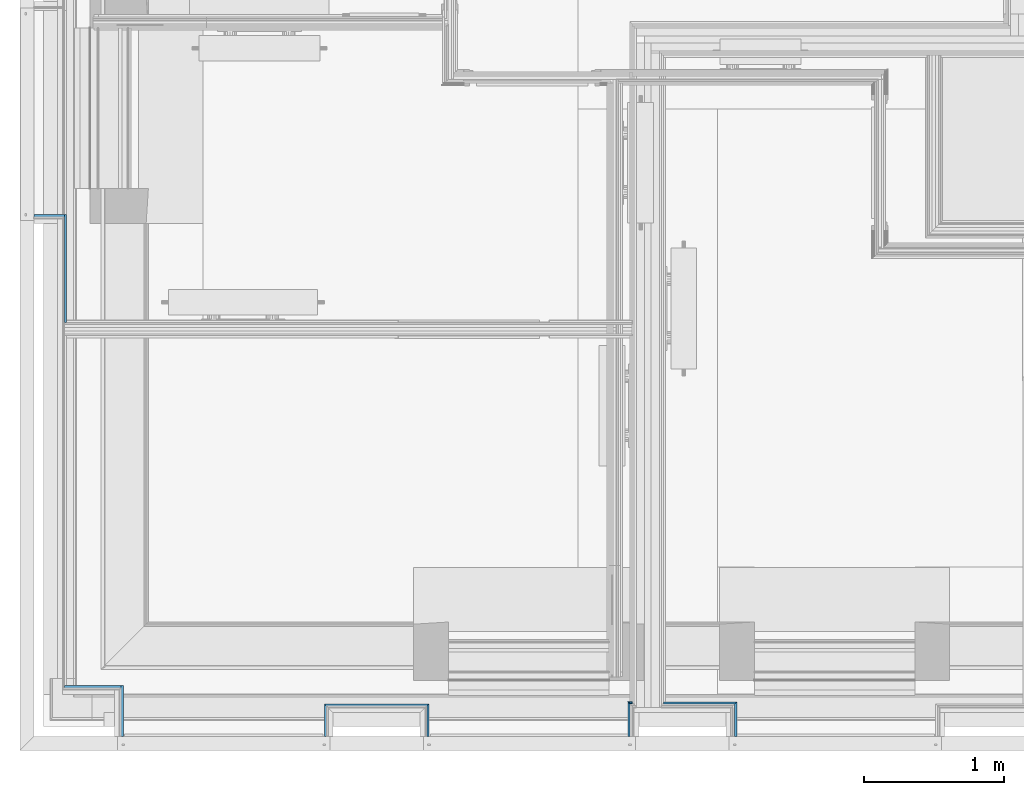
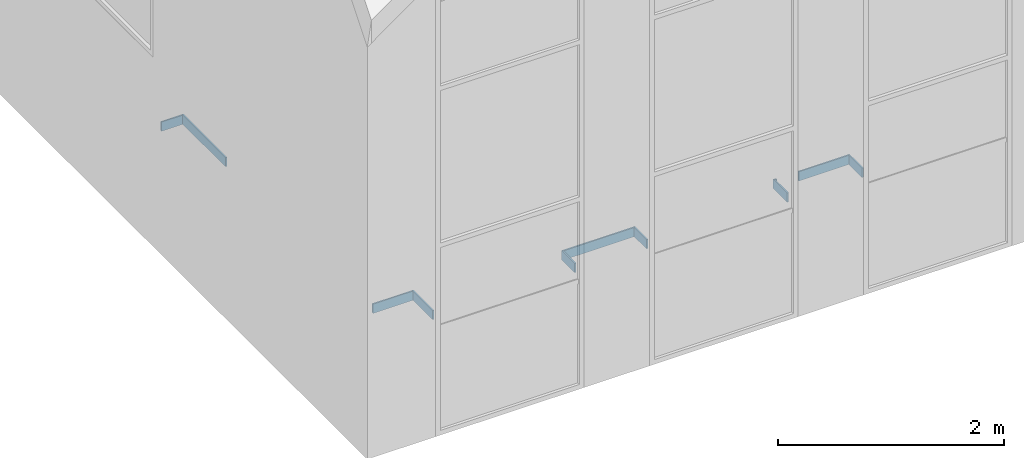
# One storey, part 49 of 169: 11 building element parts, 10 elements without a shape of their own.
"""IFC2X3 building model written with IfcOpenShell, lengths in metres."""

import ifcopenshell
import ifcopenshell.guid

model = None  # the IFC model being written
_history = None  # IfcOwnerHistory: only IFC2X3 demands one
_inside = {}  # id of a spatial element -> (the spatial element, [elements in it])
_under = {}  # id of a project, library or spatial element -> (it, [spatial elements below it])
_declared = {}  # id of a project -> (the project, [libraries it declares])
_typed = {}  # id of a type object -> (the type object, [elements of that type])
_made_of = {}  # id of a material, layer set ... -> (it, [elements and type objects made of it])


def new_model(schema):
    """Start an empty IFC model of exactly this schema.

    Asked for "IFC4X3", IfcOpenShell would pick the latest addendum, in which some entities
    have other attributes; the version numbers below select the first issue.
    IFC2X3 requires an IfcOwnerHistory on every rooted entity: one is made here for all.
    """
    global model, _history
    if schema == "IFC4X3":
        model = ifcopenshell.file(schema_version=(4, 3, 0, 0))
    else:
        model = ifcopenshell.file(schema=schema)
    _inside.clear()
    _under.clear()
    _declared.clear()
    _typed.clear()
    _made_of.clear()
    _history = None
    if model.schema == "IFC2X3":
        org = make("IfcOrganization", Name="unknown")
        user = make(
            "IfcPersonAndOrganization",
            ThePerson=make("IfcPerson", FamilyName="unknown"),
            TheOrganization=org,
        )
        app = make(
            "IfcApplication",
            ApplicationDeveloper=org,
            Version="unknown",
            ApplicationFullName="unknown",
            ApplicationIdentifier="unknown",
        )
        _history = make(
            "IfcOwnerHistory",
            OwningUser=user,
            OwningApplication=app,
            ChangeAction="ADDED",
            CreationDate=0,
        )
    return model


def make(cls, **values):
    """One entity of the class cls with the attributes given. An attribute that is None is left unset."""
    return model.create_entity(
        cls, **{name: value for name, value in values.items() if value is not None}
    )


def entity(cls, *values):
    """Any entity or typed value of the class cls, its attributes in the order of the schema. None: left unset."""
    e = model.create_entity(cls)
    for i, value in enumerate(values):
        if value is not None:
            e[i] = value
    return e


def rooted(cls, **values):
    """An entity with a GlobalId (a new one), such as an element, a storey or a relation."""
    return make(cls, GlobalId=ifcopenshell.guid.new(), OwnerHistory=_history, **values)


def si_unit(unit_type, name, prefix=None):
    """IfcSIUnit, for example si_unit("LENGTHUNIT", "METRE", prefix="MILLI")."""
    return make("IfcSIUnit", UnitType=unit_type, Prefix=prefix, Name=name)


def converted_unit(unit_type, name, factor, base, dimensions=None, offset=None):
    """IfcConversionBasedUnit, such as the inch: factor (a typed value) times the base unit."""
    return make(
        "IfcConversionBasedUnit"
        if offset is None
        else "IfcConversionBasedUnitWithOffset",
        ConversionOffset=offset,
        Dimensions=None
        if dimensions is None
        else entity("IfcDimensionalExponents", *dimensions),
        UnitType=unit_type,
        Name=name,
        ConversionFactor=make(
            "IfcMeasureWithUnit", ValueComponent=factor, UnitComponent=base
        ),
    )


def derived_unit(unit_type, elements):
    """IfcDerivedUnit: a product of units, each with its exponent."""
    return make(
        "IfcDerivedUnit",
        Elements=[
            make("IfcDerivedUnitElement", Unit=unit, Exponent=power)
            for unit, power in elements
        ],
        UnitType=unit_type,
    )


def money_unit(currency):
    """IfcMonetaryUnit."""
    return make("IfcMonetaryUnit", Currency=currency)


def assignment(units):
    """IfcUnitAssignment: the units of a project."""
    return None if units is None else make("IfcUnitAssignment", Units=units)


def point(xyz):
    """IfcCartesianPoint."""
    return None if xyz is None else make("IfcCartesianPoint", Coordinates=xyz)


def direction(xyz):
    """IfcDirection."""
    return None if xyz is None else make("IfcDirection", DirectionRatios=xyz)


def frame(location, z_axis=None, x_axis=None):
    """IfcAxis2Placement3D, a coordinate frame: its origin and axes. An axis left out is left unset."""
    return make(
        "IfcAxis2Placement3D",
        Location=point(location),
        Axis=direction(z_axis),
        RefDirection=direction(x_axis),
    )


def frame_2d(location, x_axis=None):
    """IfcAxis2Placement2D, a coordinate frame in the plane: its origin and x axis."""
    return make(
        "IfcAxis2Placement2D", Location=point(location), RefDirection=direction(x_axis)
    )


def origin_with_axes():
    """The frame at (0, 0, 0) with the z axis (0, 0, 1) and the x axis (1, 0, 0) written out."""
    return frame((0.0, 0.0, 0.0), z_axis=(0.0, 0.0, 1.0), x_axis=(1.0, 0.0, 0.0))


def place(relative_to, where):
    """IfcLocalPlacement: puts the frame where relative to a parent placement (None: the world)."""
    return make(
        "IfcLocalPlacement", PlacementRelTo=relative_to, RelativePlacement=where
    )


def context(
    kind, dimensions, precision=None, world=None, true_north=None, identifier=None
):
    """IfcGeometricRepresentationContext, for example the 3D "Model" context."""
    return make(
        "IfcGeometricRepresentationContext",
        ContextIdentifier=identifier,
        ContextType=kind,
        CoordinateSpaceDimension=dimensions,
        Precision=precision,
        WorldCoordinateSystem=world,
        TrueNorth=true_north,
    )


def subcontext(parent, identifier, kind, view, scale=None):
    """IfcGeometricRepresentationSubContext, for example "Body" below "Model"."""
    return make(
        "IfcGeometricRepresentationSubContext",
        ContextIdentifier=identifier,
        ContextType=kind,
        ParentContext=parent,
        TargetScale=scale,
        TargetView=view,
    )


def project(units=None, contexts=None):
    """IfcProject with its units and contexts."""
    return rooted(
        "IfcProject",
        Name="project",
        RepresentationContexts=contexts,
        UnitsInContext=assignment(units),
    )


def spatial(cls, under=None, at=None, **own):
    """A site, building, storey or space (cls), placed at a placement, below another one or the project."""
    s = rooted(cls, ObjectPlacement=at, **own)
    if under is not None:
        _under.setdefault(under.id(), (under, []))[1].append(s)
    return s


def polyline(points):
    """IfcPolyline through the points."""
    return make("IfcPolyline", Points=[point(p) for p in points])


def profile(cls, at=None, kind="AREA", **sizes):
    """A parametric profile (cls). Its sizes go by their IFC names, for example OverallWidth=200.0."""
    return make(cls, ProfileType=kind, Position=at, **sizes)


def rectangle(**sizes):
    """IfcRectangleProfileDef."""
    return profile("IfcRectangleProfileDef", **sizes)


def outline(outer, holes=None, kind="AREA"):
    """IfcArbitraryClosedProfileDef: a profile drawn as a closed curve; with holes, ...WithVoids."""
    if holes is None:
        return make("IfcArbitraryClosedProfileDef", ProfileType=kind, OuterCurve=outer)
    return make(
        "IfcArbitraryProfileDefWithVoids",
        ProfileType=kind,
        OuterCurve=outer,
        InnerCurves=holes,
    )


def extrude(swept, where, along, depth):
    """IfcExtrudedAreaSolid: the profile swept, set in the frame where, extruded along a direction by depth."""
    return make(
        "IfcExtrudedAreaSolid",
        SweptArea=swept,
        Position=where,
        ExtrudedDirection=direction(along),
        Depth=depth,
    )


def shape(context_of_items, identifier, shape_type, items):
    """IfcShapeRepresentation: the items that make up one representation, for example the "Body"."""
    return make(
        "IfcShapeRepresentation",
        ContextOfItems=context_of_items,
        RepresentationIdentifier=identifier,
        RepresentationType=shape_type,
        Items=items,
    )


def material(Name=None, Category=None):
    """IfcMaterial."""
    return make("IfcMaterial", Name=Name, Category=Category)


def made_of(thing, what):
    """Note that an element or type object is made of a material, layer set ...; save() writes the relation."""
    if what is not None:
        _made_of.setdefault(what.id(), (what, []))[1].append(thing)
    return thing


def type_object(cls, material=None, **own):
    """A type object (cls), such as IfcWallType, which elements share."""
    return made_of(rooted(cls, **own), material)


def element(
    cls,
    number,
    at=None,
    inside=None,
    cuts=None,
    type_object=None,
    material=None,
    context=None,
    identifier="Body",
    shape_type=None,
    held_by="IfcProductDefinitionShape",
    body=None,
    shapes=None,
    **own,
):
    """One element of the class cls, such as IfcWall. Its Tag is "e" and its number.

    at: its placement. inside: the storey or other place that contains it. cuts: it is an
    opening in that element (IfcRelVoidsElement). A single representation is given by context,
    identifier, shape_type and body (its items); several are given by shapes. held_by: the class
    of the entity that holds the representations. save() writes the other relations.
    """
    e = rooted(cls, Tag="e%d" % number, ObjectPlacement=at, **own)
    if body is not None:
        shapes = [shape(context, identifier, shape_type, body)]
    if shapes is not None:
        e.Representation = make(held_by, Representations=shapes)
    if inside is not None:
        _inside.setdefault(inside.id(), (inside, []))[1].append(e)
    if cuts is not None:
        rooted(
            "IfcRelVoidsElement", RelatingBuildingElement=cuts, RelatedOpeningElement=e
        )
    if type_object is not None:
        _typed.setdefault(type_object.id(), (type_object, []))[1].append(e)
    return made_of(e, material)


def aggregate(whole, parts):
    """IfcRelAggregates: a whole, such as a stair, and the parts it consists of."""
    return rooted("IfcRelAggregates", RelatingObject=whole, RelatedObjects=parts)


def save(model, path):
    """Write the relations noted so far, then the file.

    IfcRelAggregates (storeys below a building ...), IfcRelContainedInSpatialStructure (elements
    in a storey), IfcRelDefinesByType, IfcRelAssociatesMaterial and IfcRelDeclares: one each for
    every whole, place, type object, material and project.
    """
    for whole, parts in _under.values():
        aggregate(whole, parts)
    for where, things in _inside.values():
        rooted(
            "IfcRelContainedInSpatialStructure",
            RelatedElements=things,
            RelatingStructure=where,
        )
    for kind, things in _typed.values():
        rooted("IfcRelDefinesByType", RelatedObjects=things, RelatingType=kind)
    for what, things in _made_of.values():
        rooted("IfcRelAssociatesMaterial", RelatedObjects=things, RelatingMaterial=what)
    for by, libraries in _declared.values():
        rooted("IfcRelDeclares", RelatingContext=by, RelatedDefinitions=libraries)
    model.write(path)


model = new_model("IFC2X3")

# Units and contexts
model_context = context("Model", 3, precision=1e-05, world=origin_with_axes(), true_north=direction((0.0, 1.0)))
body_context = subcontext(model_context, "Body", "Model", "MODEL_VIEW", scale=1.0)
ifc_project = project(units=[si_unit("LENGTHUNIT", "METRE"), si_unit("AREAUNIT", "SQUARE_METRE"), si_unit("VOLUMEUNIT", "CUBIC_METRE"), si_unit("ABSORBEDDOSEUNIT", "GRAY"), si_unit("AMOUNTOFSUBSTANCEUNIT", "MOLE"), si_unit("DOSEEQUIVALENTUNIT", "SIEVERT"), si_unit("ELECTRICCAPACITANCEUNIT", "FARAD"), si_unit("ELECTRICCHARGEUNIT", "COULOMB"), si_unit("ELECTRICCONDUCTANCEUNIT", "SIEMENS"), si_unit("ELECTRICCURRENTUNIT", "AMPERE"), si_unit("ELECTRICRESISTANCEUNIT", "OHM"), si_unit("ELECTRICVOLTAGEUNIT", "VOLT"), si_unit("ENERGYUNIT", "JOULE"), si_unit("FORCEUNIT", "NEWTON"), si_unit("FREQUENCYUNIT", "HERTZ"), si_unit("ILLUMINANCEUNIT", "LUX"), si_unit("INDUCTANCEUNIT", "HENRY"), si_unit("LUMINOUSFLUXUNIT", "LUMEN"), si_unit("LUMINOUSINTENSITYUNIT", "CANDELA"), si_unit("MAGNETICFLUXDENSITYUNIT", "TESLA"), si_unit("MAGNETICFLUXUNIT", "WEBER"), si_unit("MASSUNIT", "GRAM"), converted_unit("PLANEANGLEUNIT", "degree", entity("IfcReal", 0.0174532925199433), si_unit("PLANEANGLEUNIT", "RADIAN"), dimensions=[0, 0, 0, 0, 0, 0, 0]), si_unit("POWERUNIT", "WATT"), si_unit("PRESSUREUNIT", "PASCAL"), si_unit("RADIOACTIVITYUNIT", "BECQUEREL"), si_unit("SOLIDANGLEUNIT", "STERADIAN"), si_unit("THERMODYNAMICTEMPERATUREUNIT", "KELVIN"), si_unit("TIMEUNIT", "SECOND"), derived_unit("ACCELERATIONUNIT", [(si_unit("LENGTHUNIT", "METRE"), 1), (si_unit("TIMEUNIT", "SECOND"), -2)]), derived_unit("ANGULARVELOCITYUNIT", [(converted_unit("PLANEANGLEUNIT", "degree", entity("IfcReal", 0.0174532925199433), si_unit("PLANEANGLEUNIT", "RADIAN"), dimensions=[0, 0, 0, 0, 0, 0, 0]), 1), (si_unit("TIMEUNIT", "SECOND"), -1)]), derived_unit("CURVATUREUNIT", [(converted_unit("PLANEANGLEUNIT", "degree", entity("IfcReal", 0.0174532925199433), si_unit("PLANEANGLEUNIT", "RADIAN"), dimensions=[0, 0, 0, 0, 0, 0, 0]), 1), (si_unit("LENGTHUNIT", "METRE"), -1)]), derived_unit("DYNAMICVISCOSITYUNIT", [(si_unit("PRESSUREUNIT", "PASCAL"), 1), (si_unit("TIMEUNIT", "SECOND"), 1)]), derived_unit("HEATFLUXDENSITYUNIT", [(si_unit("POWERUNIT", "WATT"), 1), (si_unit("LENGTHUNIT", "METRE"), -2)]), derived_unit("HEATINGVALUEUNIT", [(si_unit("ENERGYUNIT", "JOULE"), 1), (si_unit("MASSUNIT", "GRAM"), -1)]), derived_unit("INTEGERCOUNTRATEUNIT", [(si_unit("TIMEUNIT", "SECOND"), -1)]), derived_unit("IONCONCENTRATIONUNIT", [(si_unit("MASSUNIT", "GRAM"), 1), (si_unit("VOLUMEUNIT", "CUBIC_METRE"), -1)]), derived_unit("ISOTHERMALMOISTURECAPACITYUNIT", [(si_unit("VOLUMEUNIT", "CUBIC_METRE"), 1), (si_unit("MASSUNIT", "GRAM"), -1)]), derived_unit("KINEMATICVISCOSITYUNIT", [(si_unit("AREAUNIT", "SQUARE_METRE"), 1), (si_unit("TIMEUNIT", "SECOND"), -1)]), derived_unit("LINEARFORCEUNIT", [(si_unit("FORCEUNIT", "NEWTON"), 1), (si_unit("LENGTHUNIT", "METRE"), -1)]), derived_unit("LINEARMOMENTUNIT", [(si_unit("FORCEUNIT", "NEWTON"), 1), (si_unit("LENGTHUNIT", "METRE"), -1)]), derived_unit("LINEARSTIFFNESSUNIT", [(si_unit("FORCEUNIT", "NEWTON"), 1), (si_unit("LENGTHUNIT", "METRE"), -1)]), derived_unit("LINEARVELOCITYUNIT", [(si_unit("LENGTHUNIT", "METRE"), 1), (si_unit("TIMEUNIT", "SECOND"), -1)]), derived_unit("LUMINOUSINTENSITYDISTRIBUTIONUNIT", [(si_unit("LUMINOUSINTENSITYUNIT", "CANDELA"), 1), (si_unit("LUMINOUSFLUXUNIT", "LUMEN"), -1)]), derived_unit("MASSDENSITYUNIT", [(si_unit("MASSUNIT", "GRAM"), 1), (si_unit("VOLUMEUNIT", "CUBIC_METRE"), -1)]), derived_unit("MASSFLOWRATEUNIT", [(si_unit("MASSUNIT", "GRAM"), 1), (si_unit("TIMEUNIT", "SECOND"), -1)]), derived_unit("MASSPERLENGTHUNIT", [(si_unit("MASSUNIT", "GRAM"), 1), (si_unit("LENGTHUNIT", "METRE"), -1)]), derived_unit("MODULUSOFELASTICITYUNIT", [(si_unit("FORCEUNIT", "NEWTON"), 1), (si_unit("AREAUNIT", "SQUARE_METRE"), -1)]), derived_unit("MODULUSOFLINEARSUBGRADEREACTIONUNIT", [(si_unit("FORCEUNIT", "NEWTON"), 1), (si_unit("LENGTHUNIT", "METRE"), -2)]), derived_unit("MODULUSOFROTATIONALSUBGRADEREACTIONUNIT", [(si_unit("FORCEUNIT", "NEWTON"), 1), (si_unit("LENGTHUNIT", "METRE"), 1)]), derived_unit("MODULUSOFSUBGRADEREACTIONUNIT", [(si_unit("FORCEUNIT", "NEWTON"), 1), (si_unit("VOLUMEUNIT", "CUBIC_METRE"), -1)]), derived_unit("MOISTUREDIFFUSIVITYUNIT", [(si_unit("VOLUMEUNIT", "CUBIC_METRE"), 1), (si_unit("TIMEUNIT", "SECOND"), -1)]), derived_unit("MOLECULARWEIGHTUNIT", [(si_unit("MASSUNIT", "GRAM"), 1), (si_unit("AMOUNTOFSUBSTANCEUNIT", "MOLE"), -1)]), derived_unit("PLANARFORCEUNIT", [(si_unit("FORCEUNIT", "NEWTON"), 1), (si_unit("LENGTHUNIT", "METRE"), -2)]), derived_unit("ROTATIONALFREQUENCYUNIT", [(si_unit("TIMEUNIT", "SECOND"), -1)]), derived_unit("ROTATIONALMASSUNIT", [(si_unit("MASSUNIT", "GRAM"), 1), (si_unit("LENGTHUNIT", "METRE"), 2)]), derived_unit("ROTATIONALSTIFFNESSUNIT", [(si_unit("FORCEUNIT", "NEWTON"), 1), (si_unit("LENGTHUNIT", "METRE"), 1), (converted_unit("PLANEANGLEUNIT", "degree", entity("IfcReal", 0.0174532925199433), si_unit("PLANEANGLEUNIT", "RADIAN"), dimensions=[0, 0, 0, 0, 0, 0, 0]), -1)]), derived_unit("SECTIONAREAINTEGRALUNIT", [(si_unit("LENGTHUNIT", "METRE"), 5)]), derived_unit("SECTIONMODULUSUNIT", [(si_unit("LENGTHUNIT", "METRE"), 3)]), derived_unit("SHEARMODULUSUNIT", [(si_unit("FORCEUNIT", "NEWTON"), 1), (si_unit("AREAUNIT", "SQUARE_METRE"), -1)]), derived_unit("SOUNDPOWERUNIT", [(si_unit("ENERGYUNIT", "JOULE"), 1), (si_unit("TIMEUNIT", "SECOND"), -1)]), derived_unit("SPECIFICHEATCAPACITYUNIT", [(si_unit("FORCEUNIT", "NEWTON"), 1), (si_unit("MASSUNIT", "GRAM"), -1), (si_unit("THERMODYNAMICTEMPERATUREUNIT", "KELVIN"), -1)]), derived_unit("TEMPERATUREGRADIENTUNIT", [(si_unit("THERMODYNAMICTEMPERATUREUNIT", "KELVIN"), 1), (si_unit("LENGTHUNIT", "METRE"), -1)]), derived_unit("THERMALADMITTANCEUNIT", [(si_unit("POWERUNIT", "WATT"), 1), (si_unit("AREAUNIT", "SQUARE_METRE"), -1), (si_unit("THERMODYNAMICTEMPERATUREUNIT", "KELVIN"), -1)]), derived_unit("THERMALCONDUCTANCEUNIT", [(si_unit("POWERUNIT", "WATT"), 1), (si_unit("LENGTHUNIT", "METRE"), -1), (si_unit("THERMODYNAMICTEMPERATUREUNIT", "KELVIN"), -1)]), derived_unit("THERMALEXPANSIONCOEFFICIENTUNIT", [(si_unit("THERMODYNAMICTEMPERATUREUNIT", "KELVIN"), -1)]), derived_unit("THERMALRESISTANCEUNIT", [(si_unit("AREAUNIT", "SQUARE_METRE"), 1), (si_unit("POWERUNIT", "WATT"), -1)]), derived_unit("THERMALTRANSMITTANCEUNIT", [(si_unit("POWERUNIT", "WATT"), 1), (si_unit("AREAUNIT", "SQUARE_METRE"), -1), (si_unit("THERMODYNAMICTEMPERATUREUNIT", "KELVIN"), -1)]), derived_unit("TORQUEUNIT", [(si_unit("FORCEUNIT", "NEWTON"), 1), (si_unit("LENGTHUNIT", "METRE"), 1)]), derived_unit("VAPORPERMEABILITYUNIT", [(si_unit("MASSUNIT", "GRAM"), 1), (si_unit("TIMEUNIT", "SECOND"), -1)]), derived_unit("VOLUMETRICFLOWRATEUNIT", [(si_unit("VOLUMEUNIT", "CUBIC_METRE"), 1), (si_unit("TIMEUNIT", "SECOND"), -1)]), derived_unit("WARPINGCONSTANTUNIT", [(si_unit("LENGTHUNIT", "METRE"), 6)]), derived_unit("WARPINGMOMENTUNIT", [(si_unit("FORCEUNIT", "NEWTON"), 1), (si_unit("LENGTHUNIT", "METRE"), 2)]), money_unit("GBP")], contexts=[model_context])

# Site, building, storey
site_placement = place(None, origin_with_axes())
site = spatial("IfcSite", under=ifc_project, at=site_placement, Name="Site", CompositionType="ELEMENT")
building_placement = place(site_placement, origin_with_axes())
building = spatial("IfcBuilding", under=site, at=building_placement, Name="Building01", CompositionType="ELEMENT")
storey_placement = place(building_placement, frame((0.0, 0.0, 5.15), z_axis=(0.0, 0.0, 1.0), x_axis=(1.0, 0.0, 0.0)))
storey = spatial("IfcBuildingStorey", under=building, at=storey_placement, Name="1F", CompositionType="ELEMENT", Elevation=5.15)

# Wall, building element part
wall_type_1 = type_object("IfcWallType", Name="SHE_A-Walls_Type06d_ExternalWallInsulation_48mm", PredefinedType="NOTDEFINED")
wall_1_placement = place(storey_placement, frame((2.243, 0.1, 0.0), z_axis=(0.0, 0.0, 1.0), x_axis=(0.0, 1.0, 0.0)))
wall_1 = element("IfcWall", 1, at=wall_1_placement, inside=storey, type_object=wall_type_1, Name="6D", ObjectType="SHE_A-Walls_Type06d_ExternalWallInsulation_48mm")
ifc_material = material(Name="A_BSUK_Walls_Timber")
building_element_part_1_placement = place(wall_1_placement, origin_with_axes())
building_element_part_1 = element("IfcBuildingElementPart", 2, at=building_element_part_1_placement, material=ifc_material, Name="3", context=body_context, shape_type="SweptSolid", body=[
    extrude(outline(polyline([(0.233, 0.063), (0.0, 0.063), (0.0, 0.048), (0.218, 0.048), (0.233, 0.063)])), frame((0.0, 0.0, 0.015), z_axis=(0.0, 0.0, 1.0), x_axis=(1.0, 0.0, 0.0)), (0.0, 0.0, 1.0), 0.1),
])
aggregate(wall_1, [building_element_part_1])

wall_2_placement = place(storey_placement, frame((2.243, 0.27, 0.0), z_axis=(0.0, 0.0, 1.0), x_axis=(1.0, 0.0, 0.0)))
wall_2 = element("IfcWall", 3, at=wall_2_placement, inside=storey, type_object=wall_type_1, Name="6D", ObjectType="SHE_A-Walls_Type06d_ExternalWallInsulation_48mm")
building_element_part_2_placement = place(wall_2_placement, origin_with_axes())
building_element_part_2 = element("IfcBuildingElementPart", 4, at=building_element_part_2_placement, material=ifc_material, Name="3", context=body_context, shape_type="SweptSolid", body=[
    extrude(outline(polyline([(0.687, 0.063), (-0.063, 0.063), (-0.048, 0.048), (0.672, 0.048), (0.687, 0.063)])), frame((0.0, 0.0, 0.015), z_axis=(0.0, 0.0, 1.0), x_axis=(1.0, 0.0, 0.0)), (0.0, 0.0, 1.0), 0.1),
])
aggregate(wall_2, [building_element_part_2])

wall_3_placement = place(storey_placement, frame((2.867, 0.27, 0.0), z_axis=(0.0, 0.0, 1.0), x_axis=(0.0, -1.0, 0.0)))
wall_3 = element("IfcWall", 5, at=wall_3_placement, inside=storey, type_object=wall_type_1, Name="6D", ObjectType="SHE_A-Walls_Type06d_ExternalWallInsulation_48mm")
building_element_part_3_placement = place(wall_3_placement, origin_with_axes())
building_element_part_3 = element("IfcBuildingElementPart", 6, at=building_element_part_3_placement, material=ifc_material, Name="3", context=body_context, shape_type="SweptSolid", body=[
    extrude(outline(polyline([(-0.063, 0.063), (-0.048, 0.048), (0.17, 0.048), (0.17, 0.063), (-0.063, 0.063)])), frame((0.0, 0.0, 0.015), z_axis=(0.0, 0.0, 1.0), x_axis=(1.0, 0.0, 0.0)), (0.0, 0.0, 1.0), 0.1),
])
aggregate(wall_3, [building_element_part_3])

wall_type_2 = type_object("IfcWallType", Name="SHE_A-Walls_Type06f_ExternalWallInsulation_48+15mm", PredefinedType="NOTDEFINED")
wall_4_placement = place(storey_placement, frame((5.057, 0.27, 0.0), z_axis=(0.0, 0.0, 1.0), x_axis=(0.0, -1.0, 0.0)))
wall_4 = element("IfcWall", 7, at=wall_4_placement, inside=storey, type_object=wall_type_2, Name="6F", ObjectType="SHE_A-Walls_Type06f_ExternalWallInsulation_48+15mm")
building_element_part_4_placement = place(wall_4_placement, origin_with_axes())
building_element_part_4 = element("IfcBuildingElementPart", 8, at=building_element_part_4_placement, material=ifc_material, Name="4", context=body_context, shape_type="SweptSolid", body=[
    extrude(outline(polyline([(-0.078, 0.078), (-0.063, 0.063), (0.17, 0.063), (0.17, 0.078), (-0.078, 0.078)])), frame((0.0, 0.0, 0.015), z_axis=(0.0, 0.0, 1.0), x_axis=(1.0, 0.0, 0.0)), (0.0, 0.0, 1.0), 0.1),
])
aggregate(wall_4, [building_element_part_4])

wall_5_placement = place(storey_placement, frame((4.433, 0.1, 0.0), z_axis=(0.0, 0.0, 1.0), x_axis=(0.0, 1.0, 0.0)))
wall_5 = element("IfcWall", 9, at=wall_5_placement, inside=storey, type_object=wall_type_2, Name="6F", ObjectType="SHE_A-Walls_Type06f_ExternalWallInsulation_48+15mm")
building_element_part_5_placement = place(wall_5_placement, origin_with_axes())
building_element_part_5 = element("IfcBuildingElementPart", 10, at=building_element_part_5_placement, material=ifc_material, Name="4", context=body_context, shape_type="SweptSolid", body=[
    extrude(outline(polyline([(0.248, 0.078), (0.0, 0.078), (0.0, 0.063), (0.233, 0.063), (0.248, 0.078)])), frame((0.0, 0.0, 0.015), z_axis=(0.0, 0.0, 1.0), x_axis=(1.0, 0.0, 0.0)), (0.0, 0.0, 1.0), 0.1),
])
aggregate(wall_5, [building_element_part_5])

# Wall, building element parts
wall_6_placement = place(storey_placement, frame((4.397, 0.27, 0.0), z_axis=(0.0, 0.0, 1.0), x_axis=(1.0, 0.0, 0.0)))
wall_6 = element("IfcWall", 11, at=wall_6_placement, inside=storey, type_object=wall_type_2, Name="6F", ObjectType="SHE_A-Walls_Type06f_ExternalWallInsulation_48+15mm")
placement = place(wall_6_placement, origin_with_axes())
building_element_part_6 = element("IfcBuildingElementPart", 12, at=placement, material=ifc_material, Name="6", context=body_context, shape_type="SweptSolid", body=[
    extrude(outline(polyline([(-0.042, 0.078), (-0.027, 0.063), (-0.012, 0.063), (-0.012, 0.078), (-0.042, 0.078)])), frame((0.0, 0.0, 0.015), z_axis=(0.0, 0.0, 1.0), x_axis=(1.0, 0.0, 0.0)), (0.0, 0.0, 1.0), 0.1),
])
building_element_part_7 = element("IfcBuildingElementPart", 13, at=placement, material=ifc_material, Name="7", context=body_context, shape_type="SweptSolid", body=[
    extrude(outline(polyline([(0.738, 0.078), (0.213, 0.078), (0.213, 0.063), (0.723, 0.063), (0.738, 0.078)])), frame((0.0, 0.0, 0.015), z_axis=(0.0, 0.0, 1.0), x_axis=(1.0, 0.0, 0.0)), (0.0, 0.0, 1.0), 0.1),
])
aggregate(wall_6, [building_element_part_6, building_element_part_7])

# Wall, building element part
wall_7_placement = place(storey_placement, frame((0.27, 3.77418, 0.0), z_axis=(0.0, 0.0, 1.0), x_axis=(-1.0, 0.0, 0.0)))
wall_7 = element("IfcWall", 14, at=wall_7_placement, inside=storey, type_object=wall_type_1, Name="6D", ObjectType="SHE_A-Walls_Type06d_ExternalWallInsulation_48mm")
building_element_part_8_placement = place(wall_7_placement, origin_with_axes())
building_element_part_8 = element("IfcBuildingElementPart", 15, at=building_element_part_8_placement, material=ifc_material, Name="1", context=body_context, shape_type="SweptSolid", body=[
    extrude(rectangle(XDim=0.015, YDim=0.218, at=frame_2d((0.061, -0.0555), x_axis=(0.0, -1.0))), frame((0.0, 0.0, 0.015), z_axis=(0.0, 0.0, 1.0), x_axis=(1.0, 0.0, 0.0)), (0.0, 0.0, 1.0), 0.1),
])
aggregate(wall_7, [building_element_part_8])

wall_8_placement = place(storey_placement, frame((0.27, 3.81018, 0.0), z_axis=(0.0, 0.0, 1.0), x_axis=(0.0, -1.0, 0.0)))
wall_8 = element("IfcWall", 16, at=wall_8_placement, inside=storey, type_object=wall_type_1, Name="6D", ObjectType="SHE_A-Walls_Type06d_ExternalWallInsulation_48mm")
building_element_part_9_placement = place(wall_8_placement, origin_with_axes())
building_element_part_9 = element("IfcBuildingElementPart", 17, at=building_element_part_9_placement, material=ifc_material, Name="3", context=body_context, shape_type="SweptSolid", body=[
    extrude(rectangle(XDim=0.771894, YDim=0.015, at=frame_2d((0.358947, 0.0555), x_axis=(-1.0, 0.0))), frame((0.0, 0.0, 0.015), z_axis=(0.0, 0.0, 1.0), x_axis=(1.0, 0.0, 0.0)), (0.0, 0.0, 1.0), 0.1),
])
aggregate(wall_8, [building_element_part_9])

wall_9_placement = place(storey_placement, frame((0.306, 0.4, 0.0), z_axis=(0.0, 0.0, 1.0), x_axis=(1.0, 0.0, 0.0)))
wall_9 = element("IfcWall", 18, at=wall_9_placement, inside=storey, type_object=wall_type_1, Name="6D", ObjectType="SHE_A-Walls_Type06d_ExternalWallInsulation_48mm")
building_element_part_10_placement = place(wall_9_placement, origin_with_axes())
building_element_part_10 = element("IfcBuildingElementPart", 19, at=building_element_part_10_placement, material=ifc_material, Name="3", context=body_context, shape_type="SweptSolid", body=[
    extrude(rectangle(XDim=0.407, YDim=0.015, at=frame_2d((0.2155, 0.0555), x_axis=(-1.0, 0.0))), frame((0.0, 0.0, 0.015), z_axis=(0.0, 0.0, 1.0), x_axis=(1.0, 0.0, 0.0)), (0.0, 0.0, 1.0), 0.1),
])
aggregate(wall_9, [building_element_part_10])

wall_10_placement = place(storey_placement, frame((0.677, 0.436, 0.0), z_axis=(0.0, 0.0, 1.0), x_axis=(0.0, -1.0, 0.0)))
wall_10 = element("IfcWall", 20, at=wall_10_placement, inside=storey, type_object=wall_type_1, Name="6D", ObjectType="SHE_A-Walls_Type06d_ExternalWallInsulation_48mm")
building_element_part_11_placement = place(wall_10_placement, origin_with_axes())
building_element_part_11 = element("IfcBuildingElementPart", 21, at=building_element_part_11_placement, material=ifc_material, Name="3", context=body_context, shape_type="SweptSolid", body=[
    extrude(rectangle(XDim=0.015, YDim=0.363, at=frame_2d((0.1545, 0.0555), x_axis=(0.0, -1.0))), frame((0.0, 0.0, 0.015), z_axis=(0.0, 0.0, 1.0), x_axis=(1.0, 0.0, 0.0)), (0.0, 0.0, 1.0), 0.1),
])
aggregate(wall_10, [building_element_part_11])

save(model, "model.ifc")
